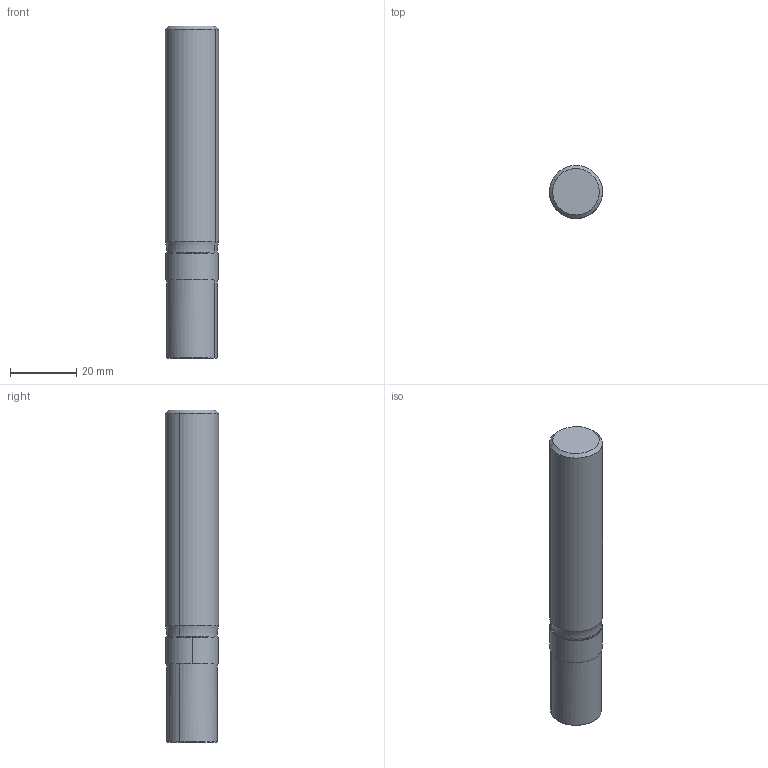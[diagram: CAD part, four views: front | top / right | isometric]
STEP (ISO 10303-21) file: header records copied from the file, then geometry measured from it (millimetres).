
FILE_DESCRIPTION(('CATIA V5 STEP','CAx-IF Rec.Pracs.--- Model Styling and Organization---1.2---2011-12-15'),'2;1');
FILE_NAME('I:\isr\design\admin8\users\weaam_s\123.stp','2013-10-28T09:35:16+00:00',('none'),('none'),'CATIA Version 5 Release 21 SP 5 (IN-10)','CATIA V5 STEP AP214','none');
FILE_SCHEMA(('AUTOMOTIVE_DESIGN { 1 0 10303 214 1 1 1 1 }'));
Length unit declared in the file: millimetre
Products named in the file (1): 620037807_0 Holder-Tool MM S-A-L100-C16-T10-N 
Bounding box: 16 x 16 x 100 mm (x, y, z)
Volume: 19532.1 mm3; surface area: 5334.7 mm2
Topology: 1 solids, 1 shells, 18 faces, 39 edges, 25 vertices
Faces by surface type: cylinder 8, plane 4, cone 4, torus 2
Entity records: 578 total; most frequent: CARTESIAN_POINT 138, ORIENTED_EDGE 78, DIRECTION 74, AXIS2_PLACEMENT_3D 44, EDGE_CURVE 39, VERTEX_POINT 25, CIRCLE 24, EDGE_LOOP 20
